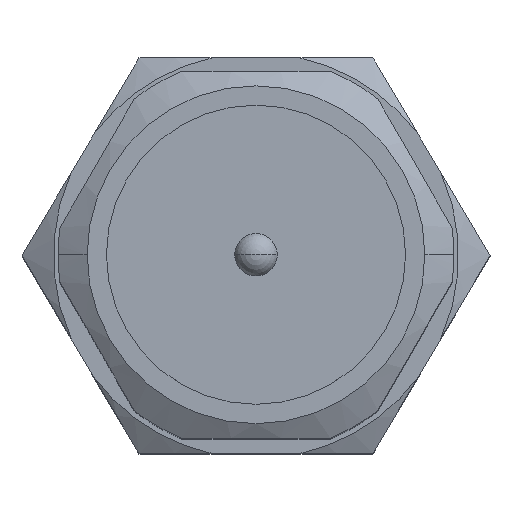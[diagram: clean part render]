
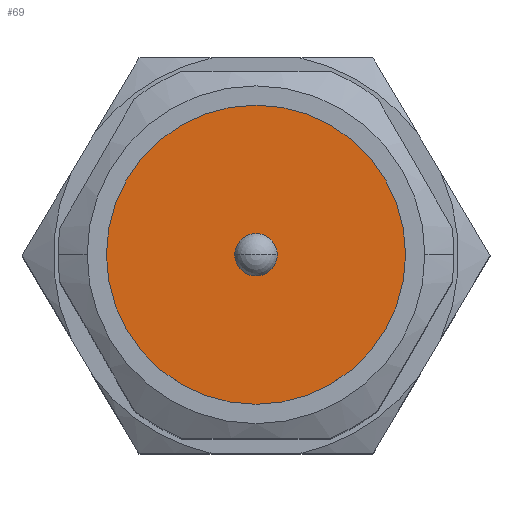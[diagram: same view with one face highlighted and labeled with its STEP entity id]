
A CAD part, top view. The second image highlights one B-rep face of the part: STEP entity #69.
In plain terms, the highlighted planar face has unit normal (0, 0, 1).
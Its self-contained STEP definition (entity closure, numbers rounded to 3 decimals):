
#69=ADVANCED_FACE('',(#384,#385),#383,.F.);
#383=PLANE('',#770);
#384=FACE_OUTER_BOUND('',#771,.T.);
#385=FACE_BOUND('',#772,.T.);
#767=CARTESIAN_POINT('',(35.65,-32.216,111.));
#768=DIRECTION('',(0.,0.,-1.));
#769=DIRECTION('',(-1.,0.,0.));
#770=AXIS2_PLACEMENT_3D('',#767,#768,#769);
#771=EDGE_LOOP('',(#1076,#1077));
#772=EDGE_LOOP('',(#1078,#1079));
#1076=ORIENTED_EDGE('',*,*,#1282,.F.);
#1077=ORIENTED_EDGE('',*,*,#1283,.F.);
#1078=ORIENTED_EDGE('',*,*,#1284,.F.);
#1079=ORIENTED_EDGE('',*,*,#1285,.F.);
#1282=EDGE_CURVE('',#1940,#1941,#1942,.T.);
#1283=EDGE_CURVE('',#1941,#1940,#1948,.T.);
#1284=EDGE_CURVE('',#1954,#1955,#1956,.T.);
#1285=EDGE_CURVE('',#1955,#1954,#1962,.T.);
#1940=VERTEX_POINT('',#2747);
#1941=VERTEX_POINT('',#2748);
#1942=CIRCLE('',#2752,15.5);
#1948=CIRCLE('',#2756,15.5);
#1954=VERTEX_POINT('',#2757);
#1955=VERTEX_POINT('',#2758);
#1956=CIRCLE('',#2762,2.2);
#1962=CIRCLE('',#2766,2.2);
#2747=CARTESIAN_POINT('',(15.5,0.,111.));
#2748=CARTESIAN_POINT('',(-15.5,0.,111.));
#2749=CARTESIAN_POINT('',(0.,0.,111.));
#2750=DIRECTION('',(0.,0.,-1.));
#2751=DIRECTION('',(-1.,0.,0.));
#2752=AXIS2_PLACEMENT_3D('',#2749,#2750,#2751);
#2753=CARTESIAN_POINT('',(0.,0.,111.));
#2754=DIRECTION('',(0.,0.,-1.));
#2755=DIRECTION('',(-1.,0.,0.));
#2756=AXIS2_PLACEMENT_3D('',#2753,#2754,#2755);
#2757=CARTESIAN_POINT('',(2.2,0.,111.));
#2758=CARTESIAN_POINT('',(-2.2,0.,111.));
#2759=CARTESIAN_POINT('',(0.,0.,111.));
#2760=DIRECTION('',(0.,0.,1.));
#2761=DIRECTION('',(-1.,0.,0.));
#2762=AXIS2_PLACEMENT_3D('',#2759,#2760,#2761);
#2763=CARTESIAN_POINT('',(0.,0.,111.));
#2764=DIRECTION('',(0.,0.,1.));
#2765=DIRECTION('',(-1.,0.,0.));
#2766=AXIS2_PLACEMENT_3D('',#2763,#2764,#2765);
